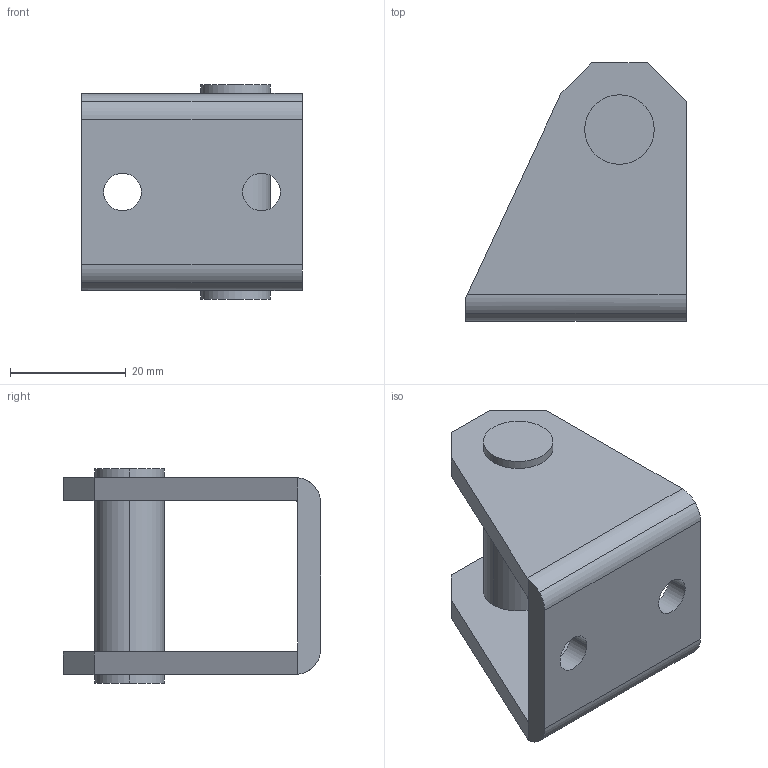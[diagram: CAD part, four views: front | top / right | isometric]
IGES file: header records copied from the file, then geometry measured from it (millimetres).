
Global section: file name: No Iges File Name specified; native system: AutoDesk Inventor R6.0; preprocessor: AutoDesk Inventor Iges Exporter R6.0; author: No Author specified; organization: No Organization specified; date: 20030408.082058; units: millimetre
Bounding box: 38 x 44.5 x 37 mm (x, y, z)
Volume: 16765 mm3; surface area: 8869.4 mm2
Topology: 1 solids, 1 shells, 36 faces, 94 edges, 62 vertices
Faces by surface type: plane 18, cylinder 10, bspline 4, revolution 4
